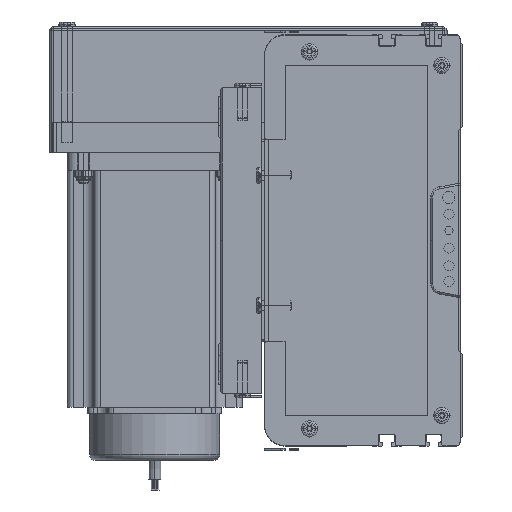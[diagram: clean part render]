
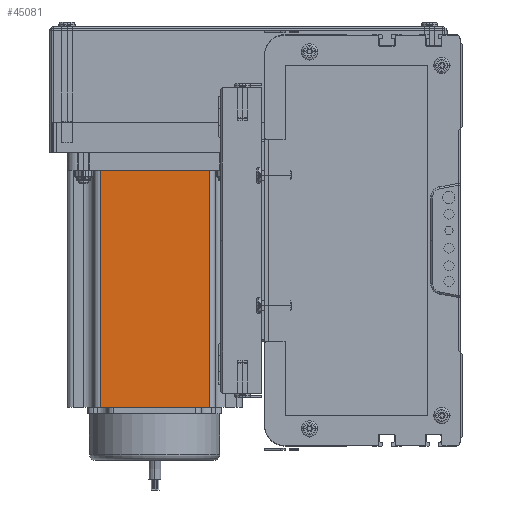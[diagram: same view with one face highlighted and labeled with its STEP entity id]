
A CAD part, left-side view. The second image highlights one B-rep face of the part: STEP entity #45081.
In plain terms, the highlighted planar face has unit normal (-1, 0, 0) as drawn and (0, -1, 0) by its records, which use the part's own axes.
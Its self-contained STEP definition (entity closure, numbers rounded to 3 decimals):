
#33921 = CARTESIAN_POINT ( 'NONE',  ( 69.74, 0., 116.5 ) ) ;
#34322 = DIRECTION ( 'NONE',  ( 1., 0., 0. ) ) ;
#34323 = VECTOR ( 'NONE', #34322, 1000. ) ;
#34324 = CARTESIAN_POINT ( 'NONE',  ( 0., 0., 116.5 ) ) ;
#34325 = LINE ( 'NONE', #34324, #34323 ) ;
#34409 = FACE_OUTER_BOUND ( 'NONE', #45195, .T. ) ;
#34410 = CARTESIAN_POINT ( 'NONE',  ( 16.16, 0., 0. ) ) ;
#34413 = PLANE ( 'NONE',  #34420 ) ;
#34415 = CARTESIAN_POINT ( 'NONE',  ( 0., 0., 116.5 ) ) ;
#34420 = AXIS2_PLACEMENT_3D ( 'NONE', #34415, #34451, #34450 ) ;
#34450 = DIRECTION ( 'NONE',  ( 0., 0., 1. ) ) ;
#34451 = DIRECTION ( 'NONE',  ( 0., 1., 0. ) ) ;
#34609 = CARTESIAN_POINT ( 'NONE',  ( 69.74, 0., 0. ) ) ;
#34889 = LINE ( 'NONE', #34931, #34929 ) ;
#34929 = VECTOR ( 'NONE', #34941, 1000. ) ;
#34930 = DIRECTION ( 'NONE',  ( 1., 0., 0. ) ) ;
#34931 = CARTESIAN_POINT ( 'NONE',  ( 69.74, 0., 116.5 ) ) ;
#34932 = LINE ( 'NONE', #34972, #34942 ) ;
#34941 = DIRECTION ( 'NONE',  ( 0., 0., 1. ) ) ;
#34942 = VECTOR ( 'NONE', #34930, 1000. ) ;
#34960 = DIRECTION ( 'NONE',  ( 0., 0., -1. ) ) ;
#34961 = VECTOR ( 'NONE', #34960, 1000. ) ;
#34962 = CARTESIAN_POINT ( 'NONE',  ( 16.16, 0., 116.5 ) ) ;
#34963 = LINE ( 'NONE', #34962, #34961 ) ;
#34972 = CARTESIAN_POINT ( 'NONE',  ( 0., 0., 0. ) ) ;
#35253 = CARTESIAN_POINT ( 'NONE',  ( 16.16, 0., 116.5 ) ) ;
#45047 = VERTEX_POINT ( 'NONE', #33921 ) ;
#45049 = ORIENTED_EDGE ( 'NONE', *, *, #45153, .T. ) ;
#45073 = VERTEX_POINT ( 'NONE', #34410 ) ;
#45080 = ORIENTED_EDGE ( 'NONE', *, *, #45163, .T. ) ;
#45081 = ADVANCED_FACE ( 'NONE', ( #34409 ), #34413, .F. ) ;
#45109 = EDGE_CURVE ( 'NONE', #45189, #45047, #34325, .T. ) ;
#45130 = VERTEX_POINT ( 'NONE', #34609 ) ;
#45153 = EDGE_CURVE ( 'NONE', #45130, #45047, #34889, .T. ) ;
#45154 = EDGE_CURVE ( 'NONE', #45073, #45130, #34932, .T. ) ;
#45159 = ORIENTED_EDGE ( 'NONE', *, *, #45154, .T. ) ;
#45163 = EDGE_CURVE ( 'NONE', #45189, #45073, #34963, .T. ) ;
#45189 = VERTEX_POINT ( 'NONE', #35253 ) ;
#45195 = EDGE_LOOP ( 'NONE', ( #45159, #45049, #45223, #45080 ) ) ;
#45223 = ORIENTED_EDGE ( 'NONE', *, *, #45109, .F. ) ;
